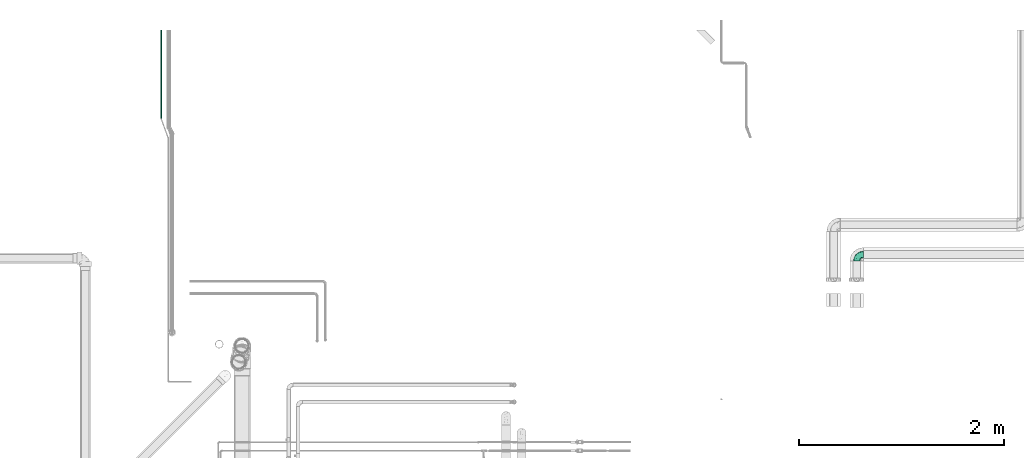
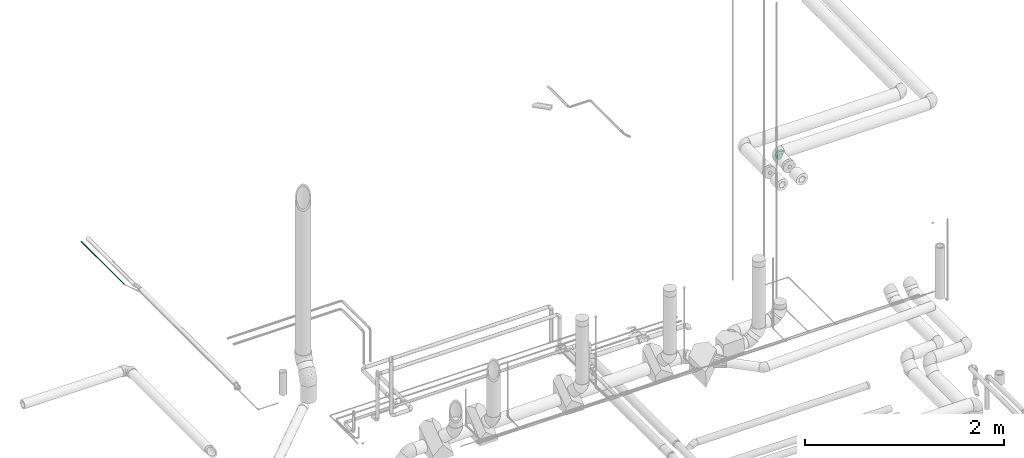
# One storey, part 141 of 156: 1 flow fitting, 1 flow segment.
"""IFC2X3 building model written with IfcOpenShell, lengths in millimetres."""

import ifcopenshell
import ifcopenshell.guid

model = None  # the IFC model being written
_history = None  # IfcOwnerHistory: only IFC2X3 demands one
_inside = {}  # id of a spatial element -> (the spatial element, [elements in it])
_under = {}  # id of a project, library or spatial element -> (it, [spatial elements below it])
_declared = {}  # id of a project -> (the project, [libraries it declares])
_typed = {}  # id of a type object -> (the type object, [elements of that type])
_made_of = {}  # id of a material, layer set ... -> (it, [elements and type objects made of it])


def new_model(schema):
    """Start an empty IFC model of exactly this schema.

    Asked for "IFC4X3", IfcOpenShell would pick the latest addendum, in which some entities
    have other attributes; the version numbers below select the first issue.
    IFC2X3 requires an IfcOwnerHistory on every rooted entity: one is made here for all.
    """
    global model, _history
    if schema == "IFC4X3":
        model = ifcopenshell.file(schema_version=(4, 3, 0, 0))
    else:
        model = ifcopenshell.file(schema=schema)
    _inside.clear()
    _under.clear()
    _declared.clear()
    _typed.clear()
    _made_of.clear()
    _history = None
    if model.schema == "IFC2X3":
        org = make("IfcOrganization", Name="unknown")
        user = make(
            "IfcPersonAndOrganization",
            ThePerson=make("IfcPerson", FamilyName="unknown"),
            TheOrganization=org,
        )
        app = make(
            "IfcApplication",
            ApplicationDeveloper=org,
            Version="unknown",
            ApplicationFullName="unknown",
            ApplicationIdentifier="unknown",
        )
        _history = make(
            "IfcOwnerHistory",
            OwningUser=user,
            OwningApplication=app,
            ChangeAction="ADDED",
            CreationDate=0,
        )
    return model


def make(cls, **values):
    """One entity of the class cls with the attributes given. An attribute that is None is left unset."""
    return model.create_entity(
        cls, **{name: value for name, value in values.items() if value is not None}
    )


def entity(cls, *values):
    """Any entity or typed value of the class cls, its attributes in the order of the schema. None: left unset."""
    e = model.create_entity(cls)
    for i, value in enumerate(values):
        if value is not None:
            e[i] = value
    return e


def rooted(cls, **values):
    """An entity with a GlobalId (a new one), such as an element, a storey or a relation."""
    return make(cls, GlobalId=ifcopenshell.guid.new(), OwnerHistory=_history, **values)


def si_unit(unit_type, name, prefix=None):
    """IfcSIUnit, for example si_unit("LENGTHUNIT", "METRE", prefix="MILLI")."""
    return make("IfcSIUnit", UnitType=unit_type, Prefix=prefix, Name=name)


def converted_unit(unit_type, name, factor, base, dimensions=None, offset=None):
    """IfcConversionBasedUnit, such as the inch: factor (a typed value) times the base unit."""
    return make(
        "IfcConversionBasedUnit"
        if offset is None
        else "IfcConversionBasedUnitWithOffset",
        ConversionOffset=offset,
        Dimensions=None
        if dimensions is None
        else entity("IfcDimensionalExponents", *dimensions),
        UnitType=unit_type,
        Name=name,
        ConversionFactor=make(
            "IfcMeasureWithUnit", ValueComponent=factor, UnitComponent=base
        ),
    )


def derived_unit(unit_type, elements):
    """IfcDerivedUnit: a product of units, each with its exponent."""
    return make(
        "IfcDerivedUnit",
        Elements=[
            make("IfcDerivedUnitElement", Unit=unit, Exponent=power)
            for unit, power in elements
        ],
        UnitType=unit_type,
    )


def assignment(units):
    """IfcUnitAssignment: the units of a project."""
    return None if units is None else make("IfcUnitAssignment", Units=units)


def point(xyz):
    """IfcCartesianPoint."""
    return None if xyz is None else make("IfcCartesianPoint", Coordinates=xyz)


def direction(xyz):
    """IfcDirection."""
    return None if xyz is None else make("IfcDirection", DirectionRatios=xyz)


def frame(location, z_axis=None, x_axis=None):
    """IfcAxis2Placement3D, a coordinate frame: its origin and axes. An axis left out is left unset."""
    return make(
        "IfcAxis2Placement3D",
        Location=point(location),
        Axis=direction(z_axis),
        RefDirection=direction(x_axis),
    )


def origin_with_axes():
    """The frame at (0, 0, 0) with the z axis (0, 0, 1) and the x axis (1, 0, 0) written out."""
    return frame((0.0, 0.0, 0.0), z_axis=(0.0, 0.0, 1.0), x_axis=(1.0, 0.0, 0.0))


def place(relative_to, where):
    """IfcLocalPlacement: puts the frame where relative to a parent placement (None: the world)."""
    return make(
        "IfcLocalPlacement", PlacementRelTo=relative_to, RelativePlacement=where
    )


def context(
    kind, dimensions, precision=None, world=None, true_north=None, identifier=None
):
    """IfcGeometricRepresentationContext, for example the 3D "Model" context."""
    return make(
        "IfcGeometricRepresentationContext",
        ContextIdentifier=identifier,
        ContextType=kind,
        CoordinateSpaceDimension=dimensions,
        Precision=precision,
        WorldCoordinateSystem=world,
        TrueNorth=true_north,
    )


def subcontext(parent, identifier, kind, view, scale=None):
    """IfcGeometricRepresentationSubContext, for example "Body" below "Model"."""
    return make(
        "IfcGeometricRepresentationSubContext",
        ContextIdentifier=identifier,
        ContextType=kind,
        ParentContext=parent,
        TargetScale=scale,
        TargetView=view,
    )


def project(units=None, contexts=None):
    """IfcProject with its units and contexts."""
    return rooted(
        "IfcProject",
        Name="project",
        RepresentationContexts=contexts,
        UnitsInContext=assignment(units),
    )


def spatial(cls, under=None, at=None, **own):
    """A site, building, storey or space (cls), placed at a placement, below another one or the project."""
    s = rooted(cls, ObjectPlacement=at, **own)
    if under is not None:
        _under.setdefault(under.id(), (under, []))[1].append(s)
    return s


def faces_of(points, faces, orient=None, outer=None):
    """IfcFace entities. A face is a list of loops; a loop is a list of indices into points, from 0.

    orient and outer hold one flag for each loop. By default every Orientation is true, the
    first loop of a face is its IfcFaceOuterBound and the others are IfcFaceBound.
    """
    made = []
    for i, loops in enumerate(faces):
        bounds = []
        for j, loop in enumerate(loops):
            is_outer = j == 0 if outer is None else outer[i][j]
            bounds.append(
                make(
                    "IfcFaceOuterBound" if is_outer else "IfcFaceBound",
                    Bound=make("IfcPolyLoop", Polygon=[points[k] for k in loop]),
                    Orientation=True if orient is None else orient[i][j],
                )
            )
        made.append(make("IfcFace", Bounds=bounds))
    return made


def open_shell(faces, orient=None, outer=None):
    """The faces of one IfcOpenShell. surface_model builds it on its shared points."""
    return ("IfcOpenShell", faces, orient, outer)


def faceted_brep(points, faces, orient=None, outer=None, voids=None):
    """IfcFacetedBrep: a solid bounded by flat faces; with voids (closed shells), ...WithVoids."""
    shared = [point(p) for p in points]
    hull = make("IfcClosedShell", CfsFaces=faces_of(shared, faces, orient, outer))
    if voids is None:
        return make("IfcFacetedBrep", Outer=hull)
    return make(
        "IfcFacetedBrepWithVoids",
        Outer=hull,
        Voids=[
            make(cls, CfsFaces=faces_of(shared, fs, o, b)) for cls, fs, o, b in voids
        ],
    )


def surface_model(cls, points, shells):
    """IfcFaceBasedSurfaceModel or IfcShellBasedSurfaceModel (cls): surfaces that need not close."""
    shared = [point(p) for p in points]
    made = [make(c, CfsFaces=faces_of(shared, fs, o, b)) for c, fs, o, b in shells]
    if cls == "IfcFaceBasedSurfaceModel":
        return make(cls, FbsmFaces=made)
    return make(cls, SbsmBoundary=made)


def shape(context_of_items, identifier, shape_type, items):
    """IfcShapeRepresentation: the items that make up one representation, for example the "Body"."""
    return make(
        "IfcShapeRepresentation",
        ContextOfItems=context_of_items,
        RepresentationIdentifier=identifier,
        RepresentationType=shape_type,
        Items=items,
    )


def source(mapping_origin, context_of_items, identifier, shape_type, items):
    """IfcRepresentationMap: a shape defined once, which mapped items show again and again."""
    return make(
        "IfcRepresentationMap",
        MappingOrigin=mapping_origin,
        MappedRepresentation=shape(context_of_items, identifier, shape_type, items),
    )


def transform(
    local_origin,
    x_axis=None,
    y_axis=None,
    z_axis=None,
    scale=None,
    scale2=None,
    scale3=None,
    uniform=True,
):
    """IfcCartesianTransformationOperator3D, or its non-uniform kind. x_axis, y_axis, z_axis: its Axis1, 2, 3."""
    if uniform:
        return make(
            "IfcCartesianTransformationOperator3D",
            Axis1=direction(x_axis),
            Axis2=direction(y_axis),
            LocalOrigin=point(local_origin),
            Scale=scale,
            Axis3=direction(z_axis),
        )
    return make(
        "IfcCartesianTransformationOperator3DnonUniform",
        Axis1=direction(x_axis),
        Axis2=direction(y_axis),
        LocalOrigin=point(local_origin),
        Scale=scale,
        Axis3=direction(z_axis),
        Scale2=scale2,
        Scale3=scale3,
    )


def mapped(mapping_source, mapping_target):
    """IfcMappedItem: shows the shape of a source again, moved by a transform."""
    return make(
        "IfcMappedItem", MappingSource=mapping_source, MappingTarget=mapping_target
    )


def made_of(thing, what):
    """Note that an element or type object is made of a material, layer set ...; save() writes the relation."""
    if what is not None:
        _made_of.setdefault(what.id(), (what, []))[1].append(thing)
    return thing


def type_object(cls, material=None, **own):
    """A type object (cls), such as IfcWallType, which elements share."""
    return made_of(rooted(cls, **own), material)


def element(
    cls,
    number,
    at=None,
    inside=None,
    cuts=None,
    type_object=None,
    material=None,
    context=None,
    identifier="Body",
    shape_type=None,
    held_by="IfcProductDefinitionShape",
    body=None,
    shapes=None,
    **own,
):
    """One element of the class cls, such as IfcWall. Its Tag is "e" and its number.

    at: its placement. inside: the storey or other place that contains it. cuts: it is an
    opening in that element (IfcRelVoidsElement). A single representation is given by context,
    identifier, shape_type and body (its items); several are given by shapes. held_by: the class
    of the entity that holds the representations. save() writes the other relations.
    """
    e = rooted(cls, Tag="e%d" % number, ObjectPlacement=at, **own)
    if body is not None:
        shapes = [shape(context, identifier, shape_type, body)]
    if shapes is not None:
        e.Representation = make(held_by, Representations=shapes)
    if inside is not None:
        _inside.setdefault(inside.id(), (inside, []))[1].append(e)
    if cuts is not None:
        rooted(
            "IfcRelVoidsElement", RelatingBuildingElement=cuts, RelatedOpeningElement=e
        )
    if type_object is not None:
        _typed.setdefault(type_object.id(), (type_object, []))[1].append(e)
    return made_of(e, material)


def aggregate(whole, parts):
    """IfcRelAggregates: a whole, such as a stair, and the parts it consists of."""
    return rooted("IfcRelAggregates", RelatingObject=whole, RelatedObjects=parts)


def save(model, path):
    """Write the relations noted so far, then the file.

    IfcRelAggregates (storeys below a building ...), IfcRelContainedInSpatialStructure (elements
    in a storey), IfcRelDefinesByType, IfcRelAssociatesMaterial and IfcRelDeclares: one each for
    every whole, place, type object, material and project.
    """
    for whole, parts in _under.values():
        aggregate(whole, parts)
    for where, things in _inside.values():
        rooted(
            "IfcRelContainedInSpatialStructure",
            RelatedElements=things,
            RelatingStructure=where,
        )
    for kind, things in _typed.values():
        rooted("IfcRelDefinesByType", RelatedObjects=things, RelatingType=kind)
    for what, things in _made_of.values():
        rooted("IfcRelAssociatesMaterial", RelatedObjects=things, RelatingMaterial=what)
    for by, libraries in _declared.values():
        rooted("IfcRelDeclares", RelatingContext=by, RelatedDefinitions=libraries)
    model.write(path)


model = new_model("IFC2X3")

# Units and contexts
model_context = context("Model", 3, precision=0.01, world=frame((0.0, 4.29681676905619e-09, 0.0)), true_north=direction((4.01073788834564e-13, 1.0)))
plan_context = context("Plan", 3, precision=0.01, world=frame((0.0, 4.29681676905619e-09, 0.0)), true_north=direction((4.01073788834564e-13, 1.0)))
body_context = subcontext(model_context, "Body", "Model", "MODEL_VIEW")
ifc_project = project(units=[converted_unit("PLANEANGLEUNIT", "DEGREE", entity("IfcPositiveLengthMeasure", 0.0174532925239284), si_unit("PLANEANGLEUNIT", "RADIAN"), dimensions=[0, 0, 0, 0, 0, 0, 0]), si_unit("AREAUNIT", "SQUARE_METRE"), si_unit("LENGTHUNIT", "METRE", prefix="MILLI"), si_unit("MASSUNIT", "GRAM", prefix="KILO"), si_unit("POWERUNIT", "WATT"), si_unit("PRESSUREUNIT", "PASCAL", prefix="KILO"), si_unit("FORCEUNIT", "NEWTON", prefix="KILO"), si_unit("ELECTRICVOLTAGEUNIT", "VOLT"), si_unit("ELECTRICCURRENTUNIT", "AMPERE"), si_unit("THERMODYNAMICTEMPERATUREUNIT", "DEGREE_CELSIUS"), si_unit("TIMEUNIT", "SECOND"), si_unit("VOLUMEUNIT", "CUBIC_METRE"), derived_unit("LINEARVELOCITYUNIT", [(si_unit("LENGTHUNIT", "METRE"), 1), (si_unit("TIMEUNIT", "SECOND"), -1)]), derived_unit("VOLUMETRICFLOWRATEUNIT", [(si_unit("VOLUMEUNIT", "CUBIC_METRE"), 1), (si_unit("TIMEUNIT", "SECOND"), -1)]), derived_unit("THERMALTRANSMITTANCEUNIT", [(si_unit("POWERUNIT", "WATT"), 1), (si_unit("THERMODYNAMICTEMPERATUREUNIT", "KELVIN"), -1), (si_unit("AREAUNIT", "SQUARE_METRE"), -1)]), derived_unit("SOUNDPRESSUREUNIT", [(si_unit("PRESSUREUNIT", "PASCAL"), 1)])], contexts=[model_context, plan_context])

# Site, building, storey
site_placement = place(None, frame((0.0, -4.29681676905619e-09, 0.0), z_axis=(0.0, 0.0, 1.0), x_axis=(1.0, 0.0, 0.0)))
site = spatial("IfcSite", under=ifc_project, at=site_placement, CompositionType="ELEMENT")
building_placement = place(site_placement, frame((0.0, 4.29681676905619e-09, 0.0), z_axis=(0.0, 0.0, 1.0), x_axis=(1.0, 0.0, 0.0)))
building = spatial("IfcBuilding", under=site, at=building_placement, Name="mc-building", CompositionType="ELEMENT")
storey_placement = place(building_placement, frame((0.0, 0.0, 205200.0), z_axis=(0.0, 0.0, 1.0), x_axis=(1.0, 0.0, 0.0)))
storey = spatial("IfcBuildingStorey", under=building, at=storey_placement, Name="Nivå D + 1,2 m", CompositionType="ELEMENT", Elevation=205200.0)

# Flow fitting
pipe_fitting_type = type_object("IfcPipeFittingType", Name="magi_pipe_elbow_short_001", PredefinedType="BEND")
shared_shape = source(origin_with_axes(), body_context, "Body", "SurfaceModel", [
    surface_model("IfcShellBasedSurfaceModel", [(-21.28084, -20.8036, 0.0), (-15.05378, -18.17088, -5.59075), (-7.69089, -13.87919, 0.0), (-64.99989, 16.25, -28.14582), (-64.99989, 8.41162, -31.39259), (-64.99989, 0.0, -32.5), (-64.99989, 31.39259, -8.41162), (-64.99989, 28.14582, -16.25), (-64.99989, 22.98097, -22.98097), (-64.99989, -16.25, -28.14582), (-64.99989, -22.98097, -22.98097), (-64.99989, -8.41162, -31.39259), (-64.99989, -31.39259, -8.41162), (-64.99989, -32.5, 0.0), (-64.99989, -28.14582, -16.25), (-64.99989, 22.98097, 22.98097), (-64.99989, 28.14582, 16.25), (-64.99989, 16.25, 28.14582), (-64.99989, -28.14582, 16.25), (-64.99989, -22.98097, 22.98097), (-64.99989, -31.39259, 8.41162), (-64.99989, -8.41162, 31.39259), (-64.99989, 0.0, 32.5), (-64.99989, -16.25, 28.14582), (0.00011, 64.99989, -32.5), (-8.41151, 64.99991, -31.39259), (-16.24989, 64.99992, -28.14582), (-22.98086, 64.99993, -22.98097), (8.41173, 64.99988, -31.39259), (22.98108, 64.99985, -22.98097), (16.25011, 64.99986, -28.14582), (31.3927, 64.99984, 8.41162), (22.98108, 64.99985, 22.98097), (28.14594, 64.99984, 16.25), (16.25011, 64.99986, 28.14582), (0.00011, 64.99989, 32.5), (8.41173, 64.99988, 31.39259), (-43.90691, -28.50357, 10.21429), (-47.66589, -25.24708, 18.24329), (-34.87076, -27.72802, 0.0), (-49.01588, -29.96838, 0.0), (-8.32276, -11.22422, 12.53242), (-2.26205, -8.68182, 6.83485), (1.87741, -1.87741, 13.46629), (-49.64951, -4.30536, 31.94417), (-45.51045, 4.98181, 32.4446), (-32.35672, -0.29166, 31.50073), (-47.54164, -12.26219, 29.22881), (-25.24131, -7.67712, 27.1649), (-41.69055, -18.5666, 24.14336), (-28.14572, 64.99994, 16.25), (-31.76887, 51.87171, 14.12563), (-27.14939, 50.59875, 21.35142), (-8.41151, 64.99991, 31.39259), (-12.13157, 56.06028, 30.44206), (-4.45418, 48.61532, 32.42017), (-64.99989, 8.41162, 31.39259), (-50.09888, 12.74635, 30.7009), (-56.22919, 19.68144, 26.48178), (-50.80501, 27.09273, 21.32871), (-51.88781, 31.7637, 14.12347), (18.56667, 41.69051, 24.14336), (-64.99989, 31.39259, 8.41162), (-33.7057, 43.08155, 18.39467), (12.26227, 47.54162, 29.22881), (-31.39248, 64.99994, 8.41162), (4.30545, 49.6495, 31.94417), (-35.71335, 13.92126, 31.91839), (-31.89098, 7.96389, 32.48613), (-19.35211, 14.20221, 32.33259), (25.24716, 47.66584, 18.24329), (-26.44662, -19.84604, 16.1655), (-23.56228, 42.00637, 27.31532), (-19.85509, 54.49715, 26.61661), (-40.35296, 40.35303, 12.14877), (-34.21029, 52.42987, 6.97228), (-40.73165, 42.62741, 5.71978), (-36.85408, 48.74997, 0.0), (-32.49989, 64.99994, 0.0), (-22.98086, 64.99993, 22.98097), (-0.49665, 0.49665, 19.20121), (11.10238, 7.93656, 12.20831), (-18.5458, 33.64298, 31.24245), (-25.89226, 31.46481, 29.57131), (-16.24989, 64.99992, 28.14582), (7.67717, 25.24129, 27.1649), (-41.74127, 34.92169, 18.12275), (0.29172, 32.35672, 31.50073), (-26.05875, -14.24555, 22.66106), (-11.79173, -7.61144, 20.74293), (-3.3201, 17.55881, 29.86711), (-29.11971, -24.90983, 6.68627), (19.84608, 26.44659, 16.1655), (-44.7539, 22.06155, 27.36835), (-14.05557, 44.03824, 30.9517), (-24.07315, 24.07319, 31.71032), (-16.14851, 5.96218, 30.34846), (-15.78141, -17.87709, 8.42053), (29.96847, 49.01583, 0.0), (32.50011, 64.99983, 0.0), (-48.74991, 36.85417, 0.0), (-47.92591, 27.98948, -21.64776), (-51.85809, 31.77338, -14.12745), (-51.4499, 4.10942, -32.39422), (-47.28416, 13.26677, -30.81881), (-35.80373, 7.68291, -32.49298), (-28.14572, 64.99994, -16.25), (-27.98941, 47.92595, -21.64776), (-52.61508, 34.1021, -7.1115), (-64.99989, 32.5, 0.0), (-20.39875, 51.02218, -26.88546), (-13.26669, 47.28418, -30.81881), (-41.35431, 41.35438, -7.75963), (19.41681, 47.01888, -24.53799), (11.21616, 41.15793, -28.90474), (12.81258, 54.88907, -29.57871), (-6.3319, -11.4324, -8.55906), (-6.42389, -8.42757, -14.80988), (3.49641, -2.75867, -8.57548), (-18.96431, 17.57363, -32.48155), (-30.80989, 19.23043, -31.53267), (-51.02215, 20.39883, -26.88546), (-47.41243, -29.09488, -10.59528), (-54.71671, -25.87182, -18.8826), (2.83434, -0.5973, -13.92945), (-47.01891, -19.41673, -24.53799), (-54.88909, -12.81249, -29.57871), (4.09793, 47.88279, -31.90577), (-40.83531, -24.10132, -17.60315), (-35.46887, -14.83969, -25.5184), (-41.15794, -11.21609, -28.90474), (-47.8828, -4.09785, -31.90577), (-28.22109, -0.40542, -30.91131), (29.09496, 47.41238, -10.59528), (28.14594, 64.99984, -16.25), (31.3927, 64.99984, -8.41162), (-30.03659, 30.03664, -28.53614), (-31.61805, 36.91937, -24.4791), (-24.35352, 39.98264, -27.53071), (-31.39248, 64.99994, -8.41162), (-34.10201, 52.61513, -7.1115), (-4.10933, 51.4499, -32.39422), (-31.77329, 51.85814, -14.12745), (-39.03342, 39.03348, -16.01918), (25.87191, 54.71667, -18.8826), (1.36823, 15.26652, -27.10351), (0.40547, 28.22109, -30.91131), (6.71718, 27.74552, -28.39194), (-7.68285, 35.80374, -32.49298), (24.10139, 40.83527, -17.60315), (-39.5128, 20.91579, -29.29247), (-13.05806, -0.54388, -26.63039), (3.82884, 9.90608, -22.79738), (-16.14693, -16.66507, -12.10402), (-20.54617, -15.8191, -17.72957), (-24.26611, -13.25757, -22.73526), (16.66509, 16.1469, -12.10402), (10.47673, 12.32092, -18.0266), (7.61146, 11.79172, 20.74293), (-5.80539, 5.8054, 26.57151), (-8.48336, 21.76758, 31.91167), (-11.29522, 31.96043, 32.44169), (-51.38136, 34.61728, 7.14562), (28.50364, 43.90687, 10.21429), (20.80364, 21.28079, 0.0), (24.90988, 29.11966, 6.68627), (17.87712, 15.78139, 8.42053), (-34.55122, 22.05208, 30.06059), (14.97301, 26.18, 22.02699), (-30.08666, 34.32045, 26.70528), (-34.2583, 36.29561, 23.02122), (8.86273, 2.36031, 6.48021), (27.72807, 34.87073, 0.0), (13.87921, 7.69086, 0.0), (3.09415, -3.09416, 0.0), (-26.55086, -8.20206, -27.26678), (-31.01118, -24.37143, -10.90365), (-39.72332, 27.45381, -25.81956), (24.37148, 31.01114, -10.90365), (-11.78144, -8.03079, -20.32004), (-11.47324, 11.47325, -30.68874), (18.83485, 26.11136, -17.45425), (13.25761, 24.2661, -22.73526), (-19.37893, 31.62683, -31.37546), (-0.30805, 0.30805, -18.83154), (18.17091, 15.05374, -5.59075)], [open_shell([[[0, 1, 2]], [[3, 4, 5]], [[6, 7, 8]], [[9, 10, 11]], [[10, 5, 11]], [[12, 13, 14]], [[10, 14, 13]], [[15, 16, 17]], [[18, 19, 20]], [[21, 22, 23]], [[17, 23, 22]], [[24, 25, 26]], [[24, 26, 27]], [[28, 29, 30]], [[28, 24, 29]], [[31, 32, 33]], [[34, 35, 36]], [[35, 34, 32]], [[37, 38, 18]], [[39, 37, 40]], [[41, 42, 43]], [[20, 37, 18]], [[20, 40, 37]], [[22, 44, 45]], [[18, 38, 19]], [[46, 47, 48]], [[49, 23, 19]], [[49, 47, 23]], [[50, 51, 52]], [[53, 54, 55]], [[56, 57, 17]], [[17, 58, 15]], [[21, 44, 22]], [[16, 59, 60]], [[61, 32, 34]], [[62, 16, 60]], [[51, 63, 52]], [[59, 16, 15]], [[22, 45, 56]], [[34, 64, 61]], [[15, 58, 59]], [[50, 65, 51]], [[35, 66, 36]], [[35, 53, 55]], [[67, 68, 69]], [[33, 32, 70]], [[38, 71, 49]], [[52, 72, 73]], [[74, 75, 76]], [[77, 75, 78]], [[75, 74, 51]], [[64, 34, 36]], [[52, 79, 50]], [[80, 43, 81]], [[82, 72, 83]], [[23, 47, 21]], [[73, 84, 79]], [[54, 53, 84]], [[61, 64, 85]], [[57, 56, 45]], [[60, 86, 74]], [[66, 55, 87]], [[48, 47, 49]], [[44, 47, 46]], [[88, 71, 89]], [[66, 64, 36]], [[85, 64, 87]], [[90, 85, 87]], [[37, 91, 71]], [[71, 38, 37]], [[49, 19, 38]], [[32, 61, 70]], [[92, 70, 61]], [[67, 57, 45]], [[58, 57, 93]], [[75, 51, 65]], [[74, 86, 63]], [[94, 54, 73]], [[67, 69, 95]], [[96, 69, 46]], [[55, 66, 35]], [[64, 66, 87]], [[47, 44, 21]], [[45, 44, 46]], [[88, 89, 48]], [[41, 71, 97]], [[20, 13, 40]], [[98, 99, 31]], [[97, 42, 41]], [[67, 45, 68]], [[82, 83, 95]], [[78, 75, 65]], [[75, 77, 76]], [[77, 100, 76]], [[45, 46, 68]], [[46, 69, 68]], [[72, 82, 94]], [[59, 86, 60]], [[74, 63, 51]], [[80, 41, 43]], [[71, 41, 89]], [[52, 73, 79]], [[94, 73, 72]], [[48, 96, 46]], [[71, 91, 97]], [[39, 91, 37]], [[57, 58, 17]], [[59, 58, 93]], [[73, 54, 84]], [[55, 54, 94]], [[41, 80, 89]], [[48, 49, 88]], [[71, 88, 49]], [[101, 7, 102]], [[5, 4, 103]], [[103, 104, 105]], [[106, 27, 107]], [[100, 108, 109]], [[110, 26, 111]], [[102, 108, 112]], [[113, 114, 115]], [[101, 8, 7]], [[116, 117, 118]], [[119, 105, 120]], [[104, 3, 121]], [[122, 14, 123]], [[122, 40, 12]], [[117, 124, 118]], [[125, 10, 9]], [[126, 125, 9]], [[28, 127, 24]], [[123, 14, 10]], [[128, 125, 129]], [[126, 9, 11]], [[130, 131, 132]], [[133, 134, 135]], [[100, 77, 112]], [[136, 137, 138]], [[78, 139, 140]], [[131, 11, 5]], [[7, 6, 102]], [[25, 141, 111]], [[142, 107, 143]], [[25, 24, 141]], [[30, 29, 113]], [[127, 28, 115]], [[139, 106, 142]], [[29, 134, 144]], [[26, 110, 27]], [[105, 104, 120]], [[28, 30, 115]], [[145, 146, 147]], [[25, 111, 26]], [[146, 148, 127]], [[131, 130, 126]], [[149, 144, 133]], [[14, 122, 12]], [[104, 150, 120]], [[3, 8, 121]], [[104, 4, 3]], [[121, 150, 104]], [[142, 112, 140]], [[143, 107, 137]], [[142, 140, 139]], [[112, 143, 102]], [[144, 113, 29]], [[146, 127, 114]], [[141, 127, 148]], [[133, 135, 98]], [[123, 125, 128]], [[103, 131, 5]], [[105, 119, 132]], [[105, 132, 131]], [[135, 99, 98]], [[8, 101, 121]], [[107, 27, 110]], [[102, 6, 108]], [[101, 102, 143]], [[107, 142, 106]], [[112, 142, 143]], [[151, 145, 152]], [[40, 122, 39]], [[40, 13, 12]], [[104, 103, 4]], [[131, 103, 105]], [[127, 141, 24]], [[111, 141, 148]], [[146, 119, 148]], [[117, 116, 153]], [[154, 117, 153]], [[128, 155, 154]], [[109, 108, 6]], [[100, 112, 108]], [[112, 77, 140]], [[78, 140, 77]], [[156, 118, 124]], [[136, 120, 150]], [[101, 143, 137]], [[138, 107, 110]], [[107, 138, 137]], [[138, 110, 111]], [[113, 115, 30]], [[127, 115, 114]], [[133, 144, 134]], [[113, 144, 149]], [[131, 126, 11]], [[125, 126, 130]], [[125, 123, 10]], [[122, 123, 128]], [[124, 157, 156]], [[146, 114, 147]], [[128, 129, 155]], [[130, 129, 125]], [[8, 3, 5]], [[10, 8, 5]], [[6, 8, 13]], [[10, 13, 8]], [[13, 16, 6]], [[6, 16, 62]], [[17, 16, 13]], [[23, 17, 13]], [[56, 17, 22]], [[20, 19, 13]], [[23, 13, 19]], [[6, 62, 109]], [[27, 106, 139]], [[24, 27, 135]], [[27, 31, 135]], [[29, 135, 134]], [[24, 135, 29]], [[135, 31, 99]], [[27, 139, 78]], [[27, 65, 84]], [[79, 65, 50]], [[84, 31, 27]], [[84, 65, 79]], [[53, 31, 84]], [[32, 31, 35]], [[31, 53, 35]], [[65, 27, 78]], [[81, 92, 158]], [[91, 39, 0]], [[48, 89, 159]], [[160, 96, 90]], [[161, 95, 69]], [[162, 60, 74]], [[109, 62, 162]], [[70, 92, 163]], [[2, 97, 0]], [[0, 97, 91]], [[163, 31, 33]], [[70, 163, 33]], [[164, 165, 166]], [[163, 98, 31]], [[167, 57, 67]], [[168, 85, 158]], [[167, 169, 93]], [[94, 161, 55]], [[166, 165, 92]], [[72, 52, 170]], [[93, 170, 59]], [[94, 82, 161]], [[96, 48, 159]], [[80, 159, 89]], [[158, 85, 159]], [[167, 83, 169]], [[86, 59, 170]], [[74, 76, 162]], [[87, 55, 161]], [[161, 69, 160]], [[81, 43, 171]], [[168, 158, 92]], [[98, 163, 172]], [[42, 97, 2]], [[164, 166, 173]], [[163, 165, 172]], [[171, 43, 42]], [[167, 67, 95]], [[83, 167, 95]], [[57, 167, 93]], [[169, 83, 72]], [[76, 100, 162]], [[109, 162, 100]], [[62, 60, 162]], [[171, 174, 173]], [[174, 171, 42]], [[42, 2, 174]], [[173, 166, 171]], [[171, 166, 81]], [[161, 82, 95]], [[63, 86, 170]], [[52, 63, 170]], [[72, 170, 169]], [[93, 169, 170]], [[90, 96, 159]], [[85, 90, 159]], [[160, 90, 87]], [[161, 160, 87]], [[96, 160, 69]], [[172, 165, 164]], [[92, 165, 163]], [[92, 81, 166]], [[80, 81, 158]], [[92, 61, 168]], [[85, 168, 61]], [[159, 80, 158]], [[175, 132, 151]], [[122, 128, 176]], [[137, 136, 177]], [[149, 133, 178]], [[154, 155, 179]], [[180, 146, 145]], [[181, 157, 182]], [[182, 113, 181]], [[133, 98, 172]], [[182, 114, 113]], [[178, 172, 164]], [[136, 183, 120]], [[179, 184, 117]], [[113, 149, 181]], [[147, 182, 145]], [[146, 180, 119]], [[178, 156, 181]], [[130, 175, 129]], [[132, 180, 151]], [[128, 154, 176]], [[118, 156, 185]], [[145, 151, 180]], [[150, 177, 136]], [[111, 183, 138]], [[152, 182, 157]], [[184, 179, 151]], [[151, 155, 175]], [[138, 183, 136]], [[119, 180, 132]], [[183, 119, 120]], [[111, 148, 183]], [[119, 183, 148]], [[116, 174, 2]], [[2, 1, 116]], [[133, 172, 178]], [[185, 178, 164]], [[118, 185, 173]], [[173, 185, 164]], [[178, 185, 156]], [[1, 176, 153]], [[39, 122, 176]], [[176, 1, 0]], [[39, 176, 0]], [[116, 1, 153]], [[118, 174, 116]], [[154, 179, 117]], [[117, 184, 124]], [[151, 179, 155]], [[176, 154, 153]], [[157, 124, 184]], [[177, 121, 101]], [[121, 177, 150]], [[137, 177, 101]], [[178, 181, 149]], [[157, 181, 156]], [[157, 184, 152]], [[151, 152, 184]], [[182, 152, 145]], [[182, 147, 114]], [[129, 175, 155]], [[132, 175, 130]], [[118, 173, 174]]])]),
])
flow_fitting_placement = place(storey_placement, frame((330305.51811, 465309.02232, 4223.13191), z_axis=(-0.0167419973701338, 0.0, 0.999859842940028), x_axis=(-0.999859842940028, 0.0, -0.0167419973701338)))
element("IfcFlowFitting", 1, at=flow_fitting_placement, inside=storey, type_object=pipe_fitting_type, Name="magi_pipe_elbow_short_001", context=body_context, shape_type="MappedRepresentation", body=[
    mapped(shared_shape, transform((0.0, 0.0, 0.0), scale=1.0)),
])

# Flow segment
pipe_segment_type = type_object("IfcPipeSegmentType", Name="Kobberrør", PredefinedType="RIGIDSEGMENT")
flow_segment_placement = place(storey_placement, frame((323519.02337, 469036.23631, 4196.25), z_axis=(0.0, 0.0, 1.0), x_axis=(0.0, -1.0, 0.0)))
element("IfcFlowSegment", 2, at=flow_segment_placement, inside=storey, type_object=pipe_segment_type, Name="Kobberrør", context=body_context, shape_type="Brep", body=[
    faceted_brep([(1536.23631000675, 3.93923101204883, -0.694592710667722), (1536.23631000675, 4.0, 0.0), (2401.2, 4.0, 0.0), (2401.2, 3.93923101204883, -0.694592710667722), (1536.23631000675, 3.75877048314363, -1.36808057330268), (2401.2, 3.75877048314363, -1.36808057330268), (1536.23631000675, 3.46410161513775, -2.0), (2401.2, 3.46410161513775, -2.0), (1536.23631000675, 3.06417777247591, -2.57115043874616), (2401.2, 3.06417777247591, -2.57115043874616), (1536.23631000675, 2.57115043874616, -3.06417777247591), (2401.2, 2.57115043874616, -3.06417777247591), (1536.23631000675, 2.0, -3.46410161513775), (2401.2, 2.0, -3.46410161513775), (1536.23631000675, 1.36808057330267, -3.75877048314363), (2401.2, 1.36808057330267, -3.75877048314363), (1536.23631000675, 0.69459271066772, -3.93923101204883), (2401.2, 0.69459271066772, -3.93923101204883), (1536.23631000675, -7.34788079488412e-16, -4.0), (2401.2, -7.34788079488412e-16, -4.0), (1536.23631000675, -0.694592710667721, -3.93923101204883), (2401.2, -0.694592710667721, -3.93923101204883), (1536.23631000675, -1.36808057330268, -3.75877048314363), (2401.2, -1.36808057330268, -3.75877048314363), (1536.23631000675, -2.0, -3.46410161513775), (2401.2, -2.0, -3.46410161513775), (1536.23631000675, -2.57115043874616, -3.06417777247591), (2401.2, -2.57115043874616, -3.06417777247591), (1536.23631000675, -3.06417777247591, -2.57115043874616), (2401.2, -3.06417777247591, -2.57115043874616), (1536.23631000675, -3.46410161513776, -2.0), (2401.2, -3.46410161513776, -2.0), (1536.23631000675, -3.75877048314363, -1.36808057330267), (2401.2, -3.75877048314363, -1.36808057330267), (1536.23631000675, -3.93923101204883, -0.69459271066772), (2401.2, -3.93923101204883, -0.69459271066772), (1536.23631000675, -4.0, 4.89858719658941e-16), (2401.2, -4.0, 4.89858719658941e-16), (1536.23631000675, -3.93923101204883, 0.694592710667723), (2401.2, -3.93923101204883, 0.694592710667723), (1536.23631000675, -3.75877048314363, 1.36808057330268), (2401.2, -3.75877048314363, 1.36808057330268), (1536.23631000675, -3.46410161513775, 2.0), (2401.2, -3.46410161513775, 2.0), (1536.23631000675, -3.06417777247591, 2.57115043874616), (2401.2, -3.06417777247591, 2.57115043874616), (1536.23631000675, -2.57115043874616, 3.06417777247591), (2401.2, -2.57115043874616, 3.06417777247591), (1536.23631000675, -2.0, 3.46410161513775), (2401.2, -2.0, 3.46410161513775), (1536.23631000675, -1.36808057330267, 3.75877048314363), (2401.2, -1.36808057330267, 3.75877048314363), (1536.23631000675, -0.694592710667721, 3.93923101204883), (2401.2, -0.694592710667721, 3.93923101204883), (1536.23631000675, 2.44929359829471e-16, 4.0), (2401.2, 2.44929359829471e-16, 4.0), (1536.23631000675, 0.694592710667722, 3.93923101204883), (2401.2, 0.694592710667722, 3.93923101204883), (1536.23631000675, 1.36808057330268, 3.75877048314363), (2401.2, 1.36808057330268, 3.75877048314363), (1536.23631000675, 2.0, 3.46410161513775), (2401.2, 2.0, 3.46410161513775), (1536.23631000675, 2.57115043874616, 3.06417777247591), (2401.2, 2.57115043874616, 3.06417777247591), (1536.23631000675, 3.06417777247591, 2.57115043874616), (2401.2, 3.06417777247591, 2.57115043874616), (1536.23631000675, 3.46410161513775, 2.0), (2401.2, 3.46410161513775, 2.0), (1536.23631000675, 3.75877048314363, 1.36808057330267), (2401.2, 3.75877048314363, 1.36808057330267), (1536.23631000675, 3.93923101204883, 0.694592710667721), (2401.2, 3.93923101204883, 0.694592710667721), (1536.23631000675, 6.0, 0.0), (1536.23631000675, 5.90884651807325, -1.04188906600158), (2401.2, 5.90884651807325, -1.04188906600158), (2401.2, 6.0, 0.0), (1536.23631000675, 5.90884651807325, 1.04188906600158), (2401.2, 5.90884651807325, 1.04188906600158), (1536.23631000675, 5.63815572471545, 2.05212085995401), (2401.2, 5.63815572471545, 2.05212085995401), (1536.23631000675, 5.19615242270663, 3.0), (2401.2, 5.19615242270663, 3.0), (1536.23631000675, 4.59626665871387, 3.85672565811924), (2401.2, 4.59626665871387, 3.85672565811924), (1536.23631000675, 3.85672565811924, 4.59626665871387), (2401.2, 3.85672565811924, 4.59626665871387), (1536.23631000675, 3.0, 5.19615242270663), (2401.2, 3.0, 5.19615242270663), (1536.23631000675, 2.05212085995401, 5.63815572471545), (2401.2, 2.05212085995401, 5.63815572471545), (1536.23631000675, 1.04188906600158, 5.90884651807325), (2401.2, 1.04188906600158, 5.90884651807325), (1536.23631000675, 3.67394039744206e-16, 6.0), (2401.2, 3.67394039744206e-16, 6.0), (1536.23631000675, -1.04188906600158, 5.90884651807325), (2401.2, -1.04188906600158, 5.90884651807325), (1536.23631000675, -2.05212085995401, 5.63815572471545), (2401.2, -2.05212085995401, 5.63815572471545), (1536.23631000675, -3.0, 5.19615242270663), (2401.2, -3.0, 5.19615242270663), (1536.23631000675, -3.85672565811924, 4.59626665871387), (2401.2, -3.85672565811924, 4.59626665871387), (1536.23631000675, -4.59626665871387, 3.85672565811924), (2401.2, -4.59626665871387, 3.85672565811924), (1536.23631000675, -5.19615242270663, 3.0), (2401.2, -5.19615242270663, 3.0), (1536.23631000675, -5.63815572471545, 2.05212085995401), (2401.2, -5.63815572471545, 2.05212085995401), (1536.23631000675, -5.90884651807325, 1.04188906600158), (2401.2, -5.90884651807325, 1.04188906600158), (1536.23631000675, -6.0, 7.34788079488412e-16), (2401.2, -6.0, 7.34788079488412e-16), (1536.23631000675, -5.90884651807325, -1.04188906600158), (2401.2, -5.90884651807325, -1.04188906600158), (1536.23631000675, -5.63815572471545, -2.05212085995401), (2401.2, -5.63815572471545, -2.05212085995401), (1536.23631000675, -5.19615242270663, -3.0), (2401.2, -5.19615242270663, -3.0), (1536.23631000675, -4.59626665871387, -3.85672565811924), (2401.2, -4.59626665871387, -3.85672565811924), (1536.23631000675, -3.85672565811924, -4.59626665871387), (2401.2, -3.85672565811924, -4.59626665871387), (1536.23631000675, -3.0, -5.19615242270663), (2401.2, -3.0, -5.19615242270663), (1536.23631000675, -2.05212085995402, -5.63815572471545), (2401.2, -2.05212085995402, -5.63815572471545), (1536.23631000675, -1.04188906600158, -5.90884651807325), (2401.2, -1.04188906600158, -5.90884651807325), (1536.23631000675, -1.10218211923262e-15, -6.0), (2401.2, -1.10218211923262e-15, -6.0), (1536.23631000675, 1.04188906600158, -5.90884651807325), (2401.2, 1.04188906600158, -5.90884651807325), (1536.23631000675, 2.05212085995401, -5.63815572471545), (2401.2, 2.05212085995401, -5.63815572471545), (1536.23631000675, 3.0, -5.19615242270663), (2401.2, 3.0, -5.19615242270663), (1536.23631000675, 3.85672565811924, -4.59626665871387), (2401.2, 3.85672565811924, -4.59626665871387), (1536.23631000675, 4.59626665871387, -3.85672565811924), (2401.2, 4.59626665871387, -3.85672565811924), (1536.23631000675, 5.19615242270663, -3.0), (2401.2, 5.19615242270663, -3.0), (1536.23631000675, 5.63815572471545, -2.05212085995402), (2401.2, 5.63815572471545, -2.05212085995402)], [[[0, 1, 2, 3]], [[4, 0, 3, 5]], [[6, 4, 5, 7]], [[8, 6, 7, 9]], [[10, 8, 9, 11]], [[12, 10, 11, 13]], [[14, 12, 13, 15]], [[16, 14, 15, 17]], [[18, 16, 17, 19]], [[20, 18, 19, 21]], [[22, 20, 21, 23]], [[24, 22, 23, 25]], [[26, 24, 25, 27]], [[28, 26, 27, 29]], [[30, 28, 29, 31]], [[32, 30, 31, 33]], [[34, 32, 33, 35]], [[36, 34, 35, 37]], [[38, 36, 37, 39]], [[40, 38, 39, 41]], [[42, 40, 41, 43]], [[44, 42, 43, 45]], [[46, 44, 45, 47]], [[48, 46, 47, 49]], [[50, 48, 49, 51]], [[52, 50, 51, 53]], [[54, 52, 53, 55]], [[56, 54, 55, 57]], [[58, 56, 57, 59]], [[60, 58, 59, 61]], [[62, 60, 61, 63]], [[64, 62, 63, 65]], [[66, 64, 65, 67]], [[68, 66, 67, 69]], [[70, 68, 69, 71]], [[1, 70, 71, 2]], [[72, 73, 74, 75]], [[76, 72, 75, 77]], [[78, 76, 77, 79]], [[80, 78, 79, 81]], [[82, 80, 81, 83]], [[84, 82, 83, 85]], [[86, 84, 85, 87]], [[88, 86, 87, 89]], [[90, 88, 89, 91]], [[92, 90, 91, 93]], [[94, 92, 93, 95]], [[96, 94, 95, 97]], [[98, 96, 97, 99]], [[100, 98, 99, 101]], [[102, 100, 101, 103]], [[104, 102, 103, 105]], [[106, 104, 105, 107]], [[108, 106, 107, 109]], [[110, 108, 109, 111]], [[112, 110, 111, 113]], [[114, 112, 113, 115]], [[116, 114, 115, 117]], [[118, 116, 117, 119]], [[120, 118, 119, 121]], [[122, 120, 121, 123]], [[124, 122, 123, 125]], [[126, 124, 125, 127]], [[128, 126, 127, 129]], [[130, 128, 129, 131]], [[132, 130, 131, 133]], [[134, 132, 133, 135]], [[136, 134, 135, 137]], [[138, 136, 137, 139]], [[140, 138, 139, 141]], [[142, 140, 141, 143]], [[73, 142, 143, 74]], [[75, 74, 143, 141, 139, 137, 135, 133, 131, 129, 127, 125, 123, 121, 119, 117, 115, 113, 111, 109, 107, 105, 103, 101, 99, 97, 95, 93, 91, 89, 87, 85, 83, 81, 79, 77], [2, 71, 69, 67, 65, 63, 61, 59, 57, 55, 53, 51, 49, 47, 45, 43, 41, 39, 37, 35, 33, 31, 29, 27, 25, 23, 21, 19, 17, 15, 13, 11, 9, 7, 5, 3]], [[76, 78, 80, 82, 84, 86, 88, 90, 92, 94, 96, 98, 100, 102, 104, 106, 108, 110, 112, 114, 116, 118, 120, 122, 124, 126, 128, 130, 132, 134, 136, 138, 140, 142, 73, 72], [4, 6, 8, 10, 12, 14, 16, 18, 20, 22, 24, 26, 28, 30, 32, 34, 36, 38, 40, 42, 44, 46, 48, 50, 52, 54, 56, 58, 60, 62, 64, 66, 68, 70, 1, 0]]], orient=[[False], [False], [False], [False], [False], [False], [False], [False], [False], [False], [False], [False], [False], [False], [False], [False], [False], [False], [False], [False], [False], [False], [False], [False], [False], [False], [False], [False], [False], [False], [False], [False], [False], [False], [False], [False], [False], [False], [False], [False], [False], [False], [False], [False], [False], [False], [False], [False], [False], [False], [False], [False], [False], [False], [False], [False], [False], [False], [False], [False], [False], [False], [False], [False], [False], [False], [False], [False], [False], [False], [False], [False], [False, False], [False, False]]),
])

save(model, "model.ifc")
